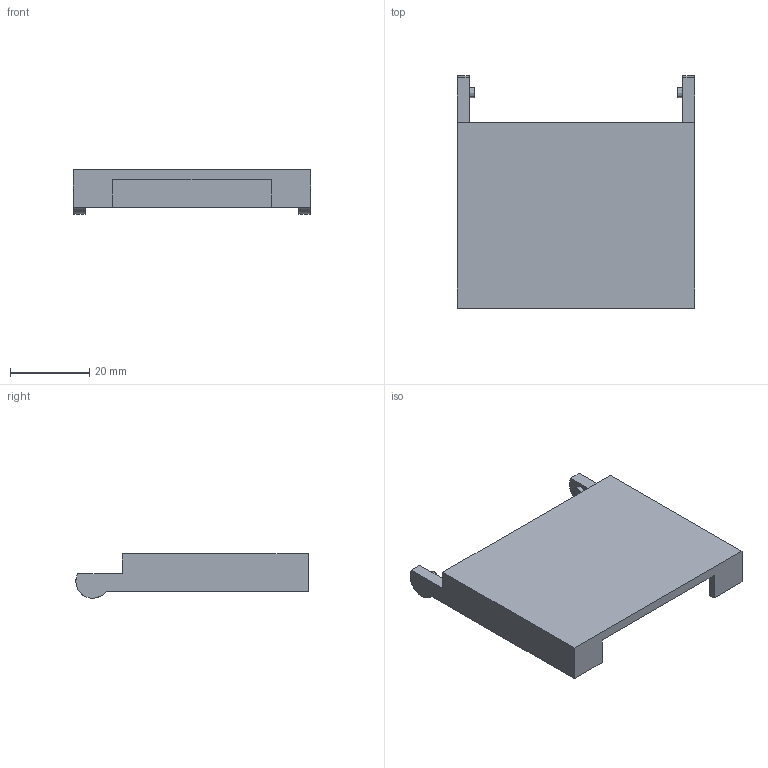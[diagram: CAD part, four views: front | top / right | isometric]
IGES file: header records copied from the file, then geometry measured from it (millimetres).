
Start section:  PTC IGES file: j5d-w60-cover2.igs
Global section: file name: j5d-w60-cover2.igs; native system: Creo Parametric by PTC Inc.; preprocessor: 2020184; author: VX25986; organization: Unknown; date: 20210323.200201; units: millimetre
Bounding box: 60 x 58.75 x 11.25 mm (x, y, z)
Surface area: 9153.9 mm2 (no closed solid volume)
Topology: 0 solids, 0 shells, 26 faces, 132 edges, 132 vertices
Faces by surface type: bspline 26
